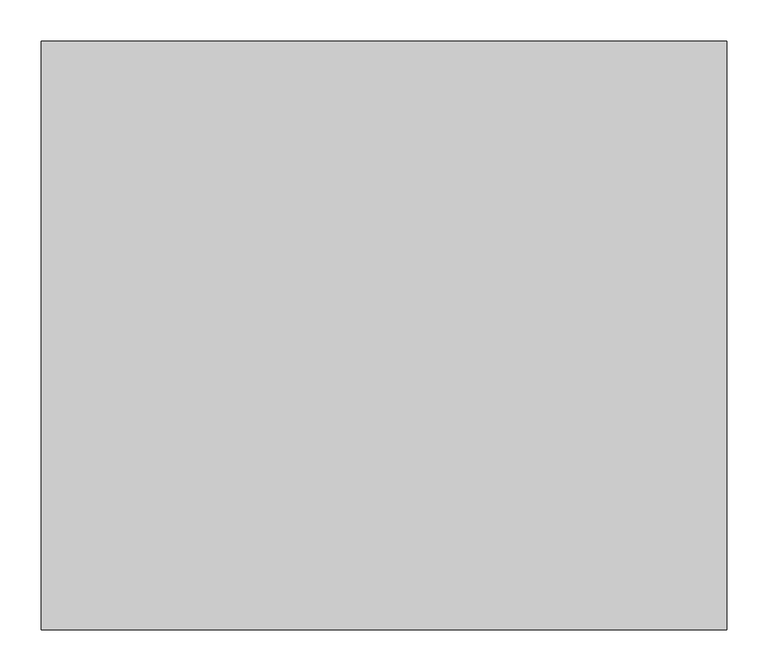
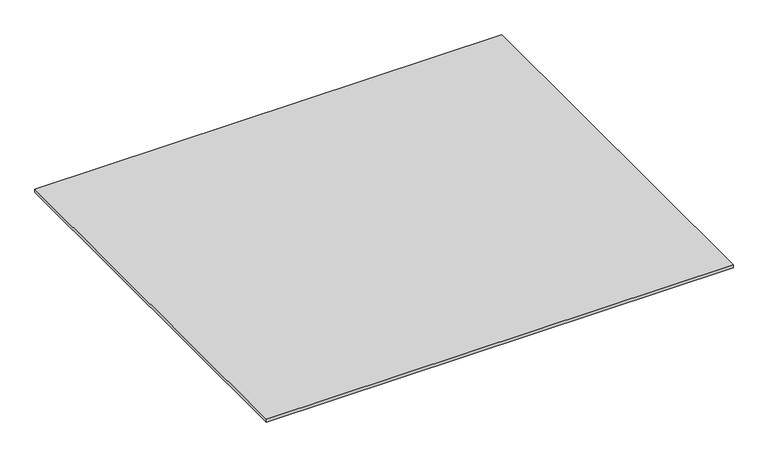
"""IFC4 building model written with IfcOpenShell, lengths in millimetres: valve geometry, Superpipe Manifold Cabinet door : Superpipe Manifold Cabinet door-9&10Way."""

import ifcopenshell
import ifcopenshell.guid

model = None  # the IFC model being written
_history = None  # IfcOwnerHistory: only IFC2X3 demands one
_inside = {}  # id of a spatial element -> (the spatial element, [elements in it])
_under = {}  # id of a project, library or spatial element -> (it, [spatial elements below it])
_declared = {}  # id of a project -> (the project, [libraries it declares])
_typed = {}  # id of a type object -> (the type object, [elements of that type])
_made_of = {}  # id of a material, layer set ... -> (it, [elements and type objects made of it])


def new_model(schema):
    """Start an empty IFC model of exactly this schema.

    Asked for "IFC4X3", IfcOpenShell would pick the latest addendum, in which some entities
    have other attributes; the version numbers below select the first issue.
    IFC2X3 requires an IfcOwnerHistory on every rooted entity: one is made here for all.
    """
    global model, _history
    if schema == "IFC4X3":
        model = ifcopenshell.file(schema_version=(4, 3, 0, 0))
    else:
        model = ifcopenshell.file(schema=schema)
    _inside.clear()
    _under.clear()
    _declared.clear()
    _typed.clear()
    _made_of.clear()
    _history = None
    if model.schema == "IFC2X3":
        org = make("IfcOrganization", Name="unknown")
        user = make(
            "IfcPersonAndOrganization",
            ThePerson=make("IfcPerson", FamilyName="unknown"),
            TheOrganization=org,
        )
        app = make(
            "IfcApplication",
            ApplicationDeveloper=org,
            Version="unknown",
            ApplicationFullName="unknown",
            ApplicationIdentifier="unknown",
        )
        _history = make(
            "IfcOwnerHistory",
            OwningUser=user,
            OwningApplication=app,
            ChangeAction="ADDED",
            CreationDate=0,
        )
    return model


def make(cls, **values):
    """One entity of the class cls with the attributes given. An attribute that is None is left unset."""
    return model.create_entity(
        cls, **{name: value for name, value in values.items() if value is not None}
    )


def rooted(cls, **values):
    """An entity with a GlobalId (a new one), such as an element, a storey or a relation."""
    return make(cls, GlobalId=ifcopenshell.guid.new(), OwnerHistory=_history, **values)


def si_unit(unit_type, name, prefix=None):
    """IfcSIUnit, for example si_unit("LENGTHUNIT", "METRE", prefix="MILLI")."""
    return make("IfcSIUnit", UnitType=unit_type, Prefix=prefix, Name=name)


def assignment(units):
    """IfcUnitAssignment: the units of a project."""
    return None if units is None else make("IfcUnitAssignment", Units=units)


def point(xyz):
    """IfcCartesianPoint."""
    return None if xyz is None else make("IfcCartesianPoint", Coordinates=xyz)


def direction(xyz):
    """IfcDirection."""
    return None if xyz is None else make("IfcDirection", DirectionRatios=xyz)


def frame(location, z_axis=None, x_axis=None):
    """IfcAxis2Placement3D, a coordinate frame: its origin and axes. An axis left out is left unset."""
    return make(
        "IfcAxis2Placement3D",
        Location=point(location),
        Axis=direction(z_axis),
        RefDirection=direction(x_axis),
    )


def origin():
    """The frame at (0, 0, 0) with its axes left unset."""
    return frame((0.0, 0.0, 0.0))


def origin_with_axes():
    """The frame at (0, 0, 0) with the z axis (0, 0, 1) and the x axis (1, 0, 0) written out."""
    return frame((0.0, 0.0, 0.0), z_axis=(0.0, 0.0, 1.0), x_axis=(1.0, 0.0, 0.0))


def place(relative_to, where):
    """IfcLocalPlacement: puts the frame where relative to a parent placement (None: the world)."""
    return make(
        "IfcLocalPlacement", PlacementRelTo=relative_to, RelativePlacement=where
    )


def context(
    kind, dimensions, precision=None, world=None, true_north=None, identifier=None
):
    """IfcGeometricRepresentationContext, for example the 3D "Model" context."""
    return make(
        "IfcGeometricRepresentationContext",
        ContextIdentifier=identifier,
        ContextType=kind,
        CoordinateSpaceDimension=dimensions,
        Precision=precision,
        WorldCoordinateSystem=world,
        TrueNorth=true_north,
    )


def project(units=None, contexts=None):
    """IfcProject with its units and contexts."""
    return rooted(
        "IfcProject",
        Name="project",
        RepresentationContexts=contexts,
        UnitsInContext=assignment(units),
    )


def spatial(cls, under=None, at=None, **own):
    """A site, building, storey or space (cls), placed at a placement, below another one or the project."""
    s = rooted(cls, ObjectPlacement=at, **own)
    if under is not None:
        _under.setdefault(under.id(), (under, []))[1].append(s)
    return s


def polyline(points):
    """IfcPolyline through the points."""
    return make("IfcPolyline", Points=[point(p) for p in points])


def outline(outer, holes=None, kind="AREA"):
    """IfcArbitraryClosedProfileDef: a profile drawn as a closed curve; with holes, ...WithVoids."""
    if holes is None:
        return make("IfcArbitraryClosedProfileDef", ProfileType=kind, OuterCurve=outer)
    return make(
        "IfcArbitraryProfileDefWithVoids",
        ProfileType=kind,
        OuterCurve=outer,
        InnerCurves=holes,
    )


def extrude(swept, where, along, depth):
    """IfcExtrudedAreaSolid: the profile swept, set in the frame where, extruded along a direction by depth."""
    return make(
        "IfcExtrudedAreaSolid",
        SweptArea=swept,
        Position=where,
        ExtrudedDirection=direction(along),
        Depth=depth,
    )


def shape(context_of_items, identifier, shape_type, items):
    """IfcShapeRepresentation: the items that make up one representation, for example the "Body"."""
    return make(
        "IfcShapeRepresentation",
        ContextOfItems=context_of_items,
        RepresentationIdentifier=identifier,
        RepresentationType=shape_type,
        Items=items,
    )


def source(mapping_origin, context_of_items, identifier, shape_type, items):
    """IfcRepresentationMap: a shape defined once, which mapped items show again and again."""
    return make(
        "IfcRepresentationMap",
        MappingOrigin=mapping_origin,
        MappedRepresentation=shape(context_of_items, identifier, shape_type, items),
    )


def transform(
    local_origin,
    x_axis=None,
    y_axis=None,
    z_axis=None,
    scale=None,
    scale2=None,
    scale3=None,
    uniform=True,
):
    """IfcCartesianTransformationOperator3D, or its non-uniform kind. x_axis, y_axis, z_axis: its Axis1, 2, 3."""
    if uniform:
        return make(
            "IfcCartesianTransformationOperator3D",
            Axis1=direction(x_axis),
            Axis2=direction(y_axis),
            LocalOrigin=point(local_origin),
            Scale=scale,
            Axis3=direction(z_axis),
        )
    return make(
        "IfcCartesianTransformationOperator3DnonUniform",
        Axis1=direction(x_axis),
        Axis2=direction(y_axis),
        LocalOrigin=point(local_origin),
        Scale=scale,
        Axis3=direction(z_axis),
        Scale2=scale2,
        Scale3=scale3,
    )


def mapped(mapping_source, mapping_target):
    """IfcMappedItem: shows the shape of a source again, moved by a transform."""
    return make(
        "IfcMappedItem", MappingSource=mapping_source, MappingTarget=mapping_target
    )


def made_of(thing, what):
    """Note that an element or type object is made of a material, layer set ...; save() writes the relation."""
    if what is not None:
        _made_of.setdefault(what.id(), (what, []))[1].append(thing)
    return thing


def element(
    cls,
    number,
    at=None,
    inside=None,
    cuts=None,
    type_object=None,
    material=None,
    context=None,
    identifier="Body",
    shape_type=None,
    held_by="IfcProductDefinitionShape",
    body=None,
    shapes=None,
    **own,
):
    """One element of the class cls, such as IfcWall. Its Tag is "e" and its number.

    at: its placement. inside: the storey or other place that contains it. cuts: it is an
    opening in that element (IfcRelVoidsElement). A single representation is given by context,
    identifier, shape_type and body (its items); several are given by shapes. held_by: the class
    of the entity that holds the representations. save() writes the other relations.
    """
    e = rooted(cls, Tag="e%d" % number, ObjectPlacement=at, **own)
    if body is not None:
        shapes = [shape(context, identifier, shape_type, body)]
    if shapes is not None:
        e.Representation = make(held_by, Representations=shapes)
    if inside is not None:
        _inside.setdefault(inside.id(), (inside, []))[1].append(e)
    if cuts is not None:
        rooted(
            "IfcRelVoidsElement", RelatingBuildingElement=cuts, RelatedOpeningElement=e
        )
    if type_object is not None:
        _typed.setdefault(type_object.id(), (type_object, []))[1].append(e)
    return made_of(e, material)


def aggregate(whole, parts):
    """IfcRelAggregates: a whole, such as a stair, and the parts it consists of."""
    return rooted("IfcRelAggregates", RelatingObject=whole, RelatedObjects=parts)


def save(model, path):
    """Write the relations noted so far, then the file.

    IfcRelAggregates (storeys below a building ...), IfcRelContainedInSpatialStructure (elements
    in a storey), IfcRelDefinesByType, IfcRelAssociatesMaterial and IfcRelDeclares: one each for
    every whole, place, type object, material and project.
    """
    for whole, parts in _under.values():
        aggregate(whole, parts)
    for where, things in _inside.values():
        rooted(
            "IfcRelContainedInSpatialStructure",
            RelatedElements=things,
            RelatingStructure=where,
        )
    for kind, things in _typed.values():
        rooted("IfcRelDefinesByType", RelatedObjects=things, RelatingType=kind)
    for what, things in _made_of.values():
        rooted("IfcRelAssociatesMaterial", RelatedObjects=things, RelatingMaterial=what)
    for by, libraries in _declared.values():
        rooted("IfcRelDeclares", RelatingContext=by, RelatedDefinitions=libraries)
    model.write(path)


def valve_f57de290(model_context):
    return source(origin(), model_context, "Body", "SweptSolid", [
        extrude(outline(polyline([(415.0, 356.5), (415.0, -356.5), (-415.0, -356.5), (-415.0, 356.5), (415.0, 356.5)])), origin_with_axes(), (0.0, 0.0, 1.0), 5.0),
    ])


if __name__ == "__main__":
    model = new_model("IFC4")
    model_context = context("Model", 3, world=origin())
    ifc_project = project(units=[si_unit("LENGTHUNIT", "METRE", prefix="MILLI")], contexts=[model_context])
    site = spatial("IfcSite", under=ifc_project)
    building = spatial("IfcBuilding", under=site)
    placement = place(None, origin())
    valve_shape = valve_f57de290(model_context)
    element("IfcValve", 1, ObjectType="Superpipe Manifold Cabinet door : Superpipe Manifold Cabinet door-9&10Way", at=placement, inside=building, context=model_context, shape_type="MappedRepresentation", body=[
        mapped(valve_shape, transform((0.0, 0.0, 0.0), x_axis=(1.0, 0.0, 0.0), y_axis=(0.0, 1.0, 0.0), z_axis=(0.0, 0.0, 1.0))),
    ])
    save(model, "model.ifc")
